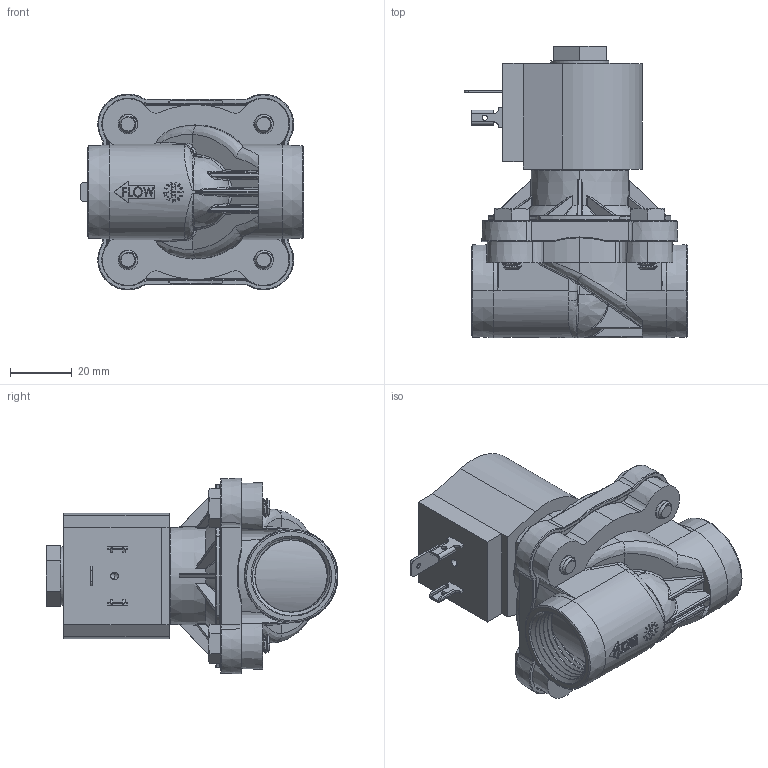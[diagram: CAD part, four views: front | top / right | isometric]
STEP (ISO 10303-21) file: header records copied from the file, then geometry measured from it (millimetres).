
FILE_DESCRIPTION (( 'STEP AP203' ), '1' );
FILE_NAME ('S211Yx02xPEG5.STEP', '2024-05-02T16:32:07', ( '' ), ( '' ), 'SwSTEP 2.0', 'SolidWorks 2023', '' );
FILE_SCHEMA (( 'CONFIG_CONTROL_DESIGN' ));
Products named in the file (1): S211Yx02xPEG5
Bounding box: 72.39 x 94.6 x 63.5 mm (x, y, z)
Volume: 152524.9 mm3; surface area: 32250.5 mm2
Topology: 1 solids, 2 shells, 2123 faces, 5487 edges, 3330 vertices
Faces by surface type: bspline 901, plane 552, cylinder 262, torus 172, cone 151, sphere 85
Entity records: 108647 total; most frequent: CARTESIAN_POINT 64571, ORIENTED_EDGE 10744, DIRECTION 6849, EDGE_CURVE 5372, VERTEX_POINT 3327, AXIS2_PLACEMENT_3D 2491, EDGE_LOOP 2205, FACE_OUTER_BOUND 2123
